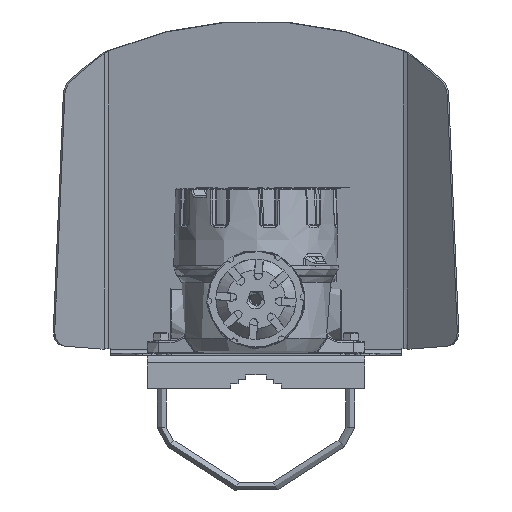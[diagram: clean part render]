
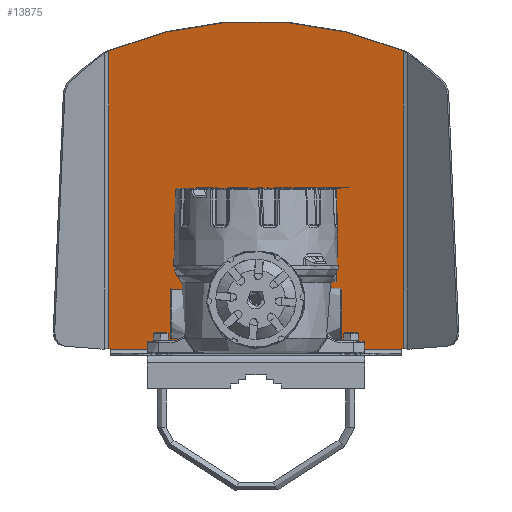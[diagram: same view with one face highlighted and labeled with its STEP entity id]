
A CAD part, front view. The second image highlights one B-rep face of the part: STEP entity #13875.
In plain terms, the highlighted planar face has unit normal (0, -0.985, -0.174) as drawn and (0, 0, 1) by its records, which use the part's own axes.
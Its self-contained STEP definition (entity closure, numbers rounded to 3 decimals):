
#13875=ADVANCED_FACE('',(#63637),#63639,.T.);
#63637=FACE_BOUND('',#63638,.T.);
#63638=EDGE_LOOP('',(#90654,#90655,#90656,#90657,#90658,#90659,#90660,#90661));
#63639=PLANE('',#63640);
#63640=AXIS2_PLACEMENT_3D('',#63641,#63642,#63643);
#63641=CARTESIAN_POINT('',(0.,0.,1.5));
#63642=DIRECTION('',(0.,0.,1.));
#63643=DIRECTION('',(1.,0.,0.));
#90654=ORIENTED_EDGE('',*,*,#114993,.T.);
#90655=ORIENTED_EDGE('',*,*,#114994,.T.);
#90656=ORIENTED_EDGE('',*,*,#114995,.T.);
#90657=ORIENTED_EDGE('',*,*,#114996,.T.);
#90658=ORIENTED_EDGE('',*,*,#114997,.T.);
#90659=ORIENTED_EDGE('',*,*,#114998,.F.);
#90660=ORIENTED_EDGE('',*,*,#114999,.T.);
#90661=ORIENTED_EDGE('',*,*,#115000,.T.);
#114993=EDGE_CURVE('',#128532,#128533,#128534,.T.);
#114994=EDGE_CURVE('',#128533,#128535,#128536,.T.);
#114995=EDGE_CURVE('',#128535,#128537,#128538,.T.);
#114996=EDGE_CURVE('',#128537,#128539,#128540,.T.);
#114997=EDGE_CURVE('',#128539,#128541,#128542,.T.);
#114998=EDGE_CURVE('',#128543,#128541,#128544,.T.);
#114999=EDGE_CURVE('',#128543,#128545,#128546,.T.);
#115000=EDGE_CURVE('',#128545,#128532,#128547,.T.);
#128532=VERTEX_POINT('',#172164);
#128533=VERTEX_POINT('',#172165);
#128534=LINE('',#172166,#172167);
#128535=VERTEX_POINT('',#172169);
#128536=LINE('',#172170,#172171);
#128537=VERTEX_POINT('',#172173);
#128538=LINE('',#172174,#172175);
#128539=VERTEX_POINT('',#172177);
#128540=LINE('',#172178,#172179);
#128541=VERTEX_POINT('',#172181);
#128542=CIRCLE('',#172182,250.);
#128543=VERTEX_POINT('',#172186);
#128544=LINE('',#172187,#172188);
#128545=VERTEX_POINT('',#172190);
#128546=LINE('',#172191,#172192);
#128547=LINE('',#172194,#172195);
#172164=CARTESIAN_POINT('',(-97.,-0.616,1.5));
#172165=CARTESIAN_POINT('',(97.,-0.616,1.5));
#172166=CARTESIAN_POINT('',(-97.,-0.616,1.5));
#172167=VECTOR('',#172168,1.);
#172168=DIRECTION('',(1.,0.,0.));
#172169=CARTESIAN_POINT('',(97.,0.,1.5));
#172170=CARTESIAN_POINT('',(97.,-0.616,1.5));
#172171=VECTOR('',#172172,1.);
#172172=DIRECTION('',(0.,1.,0.));
#172173=CARTESIAN_POINT('',(98.18,0.,1.5));
#172174=CARTESIAN_POINT('',(97.,0.,1.5));
#172175=VECTOR('',#172176,1.);
#172176=DIRECTION('',(1.,0.,0.));
#172177=CARTESIAN_POINT('',(98.18,201.914,1.5));
#172178=CARTESIAN_POINT('',(98.18,0.,1.5));
#172179=VECTOR('',#172180,1.);
#172180=DIRECTION('',(0.,1.,0.));
#172181=CARTESIAN_POINT('',(-98.18,201.914,1.5));
#172182=AXIS2_PLACEMENT_3D('',#172183,#172184,#172185);
#172183=CARTESIAN_POINT('',(0.,-28.,1.5));
#172184=DIRECTION('',(0.,0.,1.));
#172185=DIRECTION('',(0.393,0.92,0.));
#172186=CARTESIAN_POINT('',(-98.18,0.,1.5));
#172187=CARTESIAN_POINT('',(-98.18,0.,1.5));
#172188=VECTOR('',#172189,1.);
#172189=DIRECTION('',(0.,1.,0.));
#172190=CARTESIAN_POINT('',(-97.,0.,1.5));
#172191=CARTESIAN_POINT('',(-98.18,0.,1.5));
#172192=VECTOR('',#172193,1.);
#172193=DIRECTION('',(1.,0.,0.));
#172194=CARTESIAN_POINT('',(-97.,0.,1.5));
#172195=VECTOR('',#172196,1.);
#172196=DIRECTION('',(0.,-1.,0.));
